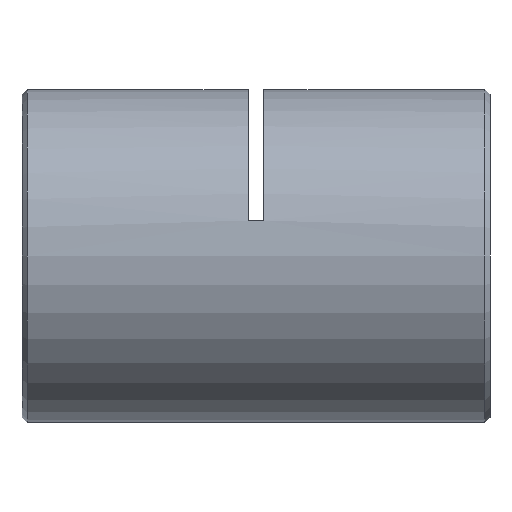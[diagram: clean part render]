
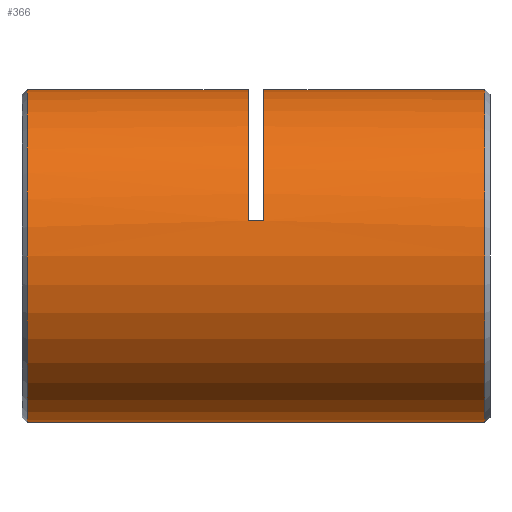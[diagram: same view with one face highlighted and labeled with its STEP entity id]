
A CAD part, left-side view. The second image highlights one B-rep face of the part: STEP entity #366.
In plain terms, the highlighted cylindrical face has radius 16 mm (diameter 32 mm), a partial arc.
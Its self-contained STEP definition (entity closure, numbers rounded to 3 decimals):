
#92 = CARTESIAN_POINT ( 'NONE',  ( 0., 44.75, 16. ) ) ;
#208 = CARTESIAN_POINT ( 'NONE',  ( 0., 22., 16. ) ) ;
#324 = EDGE_CURVE ( 'NONE', #730, #3473, #2063, .T. ) ;
#366 = ADVANCED_FACE ( 'NONE', ( #457 ), #4388, .T. ) ;
#426 = LINE ( 'NONE', #6315, #5059 ) ;
#431 = VECTOR ( 'NONE', #2555, 1000. ) ;
#457 = FACE_OUTER_BOUND ( 'NONE', #1425, .T. ) ;
#458 = VERTEX_POINT ( 'NONE', #2059 ) ;
#465 = CARTESIAN_POINT ( 'NONE',  ( 0., 0., 16. ) ) ;
#557 = CARTESIAN_POINT ( 'NONE',  ( 0., 0., 16. ) ) ;
#583 = VECTOR ( 'NONE', #5843, 1000. ) ;
#708 = CARTESIAN_POINT ( 'NONE',  ( -15.632, 22., 3.413 ) ) ;
#730 = VERTEX_POINT ( 'NONE', #708 ) ;
#852 = VECTOR ( 'NONE', #5892, 1000. ) ;
#1042 = CARTESIAN_POINT ( 'NONE',  ( 0., 0.75, -16. ) ) ;
#1049 = CIRCLE ( 'NONE', #3400, 16. ) ;
#1145 = DIRECTION ( 'NONE',  ( 0., 0., 1. ) ) ;
#1332 = VERTEX_POINT ( 'NONE', #4758 ) ;
#1425 = EDGE_LOOP ( 'NONE', ( #5441, #4301, #4426, #2588, #2948, #5423, #5839, #2083 ) ) ;
#1548 = CARTESIAN_POINT ( 'NONE',  ( 0., 0.75, 0. ) ) ;
#1571 = AXIS2_PLACEMENT_3D ( 'NONE', #6104, #2139, #5195 ) ;
#1626 = DIRECTION ( 'NONE',  ( 0., 1., 0. ) ) ;
#1680 = VERTEX_POINT ( 'NONE', #92 ) ;
#1767 = CIRCLE ( 'NONE', #1571, 16. ) ;
#1882 = DIRECTION ( 'NONE',  ( 0., 1., 0. ) ) ;
#1986 = CARTESIAN_POINT ( 'NONE',  ( 0., 22., 0. ) ) ;
#2059 = CARTESIAN_POINT ( 'NONE',  ( -15.632, 23.5, 3.413 ) ) ;
#2063 = CIRCLE ( 'NONE', #3805, 16. ) ;
#2080 = DIRECTION ( 'NONE',  ( 0., 0., 1. ) ) ;
#2083 = ORIENTED_EDGE ( 'NONE', *, *, #4524, .T. ) ;
#2087 = CIRCLE ( 'NONE', #5984, 16. ) ;
#2139 = DIRECTION ( 'NONE',  ( 0., -1., 0. ) ) ;
#2455 = CARTESIAN_POINT ( 'NONE',  ( -15.632, 22.75, 3.413 ) ) ;
#2555 = DIRECTION ( 'NONE',  ( 0., 1., 0. ) ) ;
#2588 = ORIENTED_EDGE ( 'NONE', *, *, #324, .F. ) ;
#2906 = EDGE_CURVE ( 'NONE', #5001, #1680, #3926, .T. ) ;
#2948 = ORIENTED_EDGE ( 'NONE', *, *, #5104, .T. ) ;
#3020 = CARTESIAN_POINT ( 'NONE',  ( 0., 44.75, -16. ) ) ;
#3275 = AXIS2_PLACEMENT_3D ( 'NONE', #6030, #4650, #2080 ) ;
#3279 = EDGE_CURVE ( 'NONE', #4787, #6049, #426, .T. ) ;
#3400 = AXIS2_PLACEMENT_3D ( 'NONE', #1548, #3517, #4901 ) ;
#3473 = VERTEX_POINT ( 'NONE', #208 ) ;
#3517 = DIRECTION ( 'NONE',  ( 0., 1., 0. ) ) ;
#3526 = DIRECTION ( 'NONE',  ( 0., 1., 0. ) ) ;
#3695 = EDGE_CURVE ( 'NONE', #4787, #1332, #1049, .T. ) ;
#3805 = AXIS2_PLACEMENT_3D ( 'NONE', #1986, #3526, #5426 ) ;
#3926 = LINE ( 'NONE', #465, #583 ) ;
#4105 = EDGE_CURVE ( 'NONE', #458, #5001, #2087, .T. ) ;
#4301 = ORIENTED_EDGE ( 'NONE', *, *, #3695, .T. ) ;
#4388 = CYLINDRICAL_SURFACE ( 'NONE', #3275, 16. ) ;
#4426 = ORIENTED_EDGE ( 'NONE', *, *, #4788, .T. ) ;
#4524 = EDGE_CURVE ( 'NONE', #1680, #6049, #1767, .T. ) ;
#4650 = DIRECTION ( 'NONE',  ( 0., 1., 0. ) ) ;
#4732 = CARTESIAN_POINT ( 'NONE',  ( 0., 23.5, 16. ) ) ;
#4758 = CARTESIAN_POINT ( 'NONE',  ( 0., 0.75, 16. ) ) ;
#4787 = VERTEX_POINT ( 'NONE', #1042 ) ;
#4788 = EDGE_CURVE ( 'NONE', #1332, #3473, #4972, .T. ) ;
#4901 = DIRECTION ( 'NONE',  ( 0., 0., 1. ) ) ;
#4972 = LINE ( 'NONE', #557, #431 ) ;
#5001 = VERTEX_POINT ( 'NONE', #4732 ) ;
#5059 = VECTOR ( 'NONE', #1882, 1000. ) ;
#5104 = EDGE_CURVE ( 'NONE', #730, #458, #5415, .T. ) ;
#5195 = DIRECTION ( 'NONE',  ( 0., 0., -1. ) ) ;
#5415 = LINE ( 'NONE', #2455, #852 ) ;
#5423 = ORIENTED_EDGE ( 'NONE', *, *, #4105, .T. ) ;
#5426 = DIRECTION ( 'NONE',  ( 0., 0., 1. ) ) ;
#5441 = ORIENTED_EDGE ( 'NONE', *, *, #3279, .F. ) ;
#5839 = ORIENTED_EDGE ( 'NONE', *, *, #2906, .T. ) ;
#5843 = DIRECTION ( 'NONE',  ( 0., 1., 0. ) ) ;
#5892 = DIRECTION ( 'NONE',  ( 0., 1., 0. ) ) ;
#5952 = CARTESIAN_POINT ( 'NONE',  ( 0., 23.5, 0. ) ) ;
#5984 = AXIS2_PLACEMENT_3D ( 'NONE', #5952, #1626, #1145 ) ;
#6030 = CARTESIAN_POINT ( 'NONE',  ( 0., 0., 0. ) ) ;
#6049 = VERTEX_POINT ( 'NONE', #3020 ) ;
#6104 = CARTESIAN_POINT ( 'NONE',  ( 0., 44.75, 0. ) ) ;
#6315 = CARTESIAN_POINT ( 'NONE',  ( 0., 0., -16. ) ) ;
